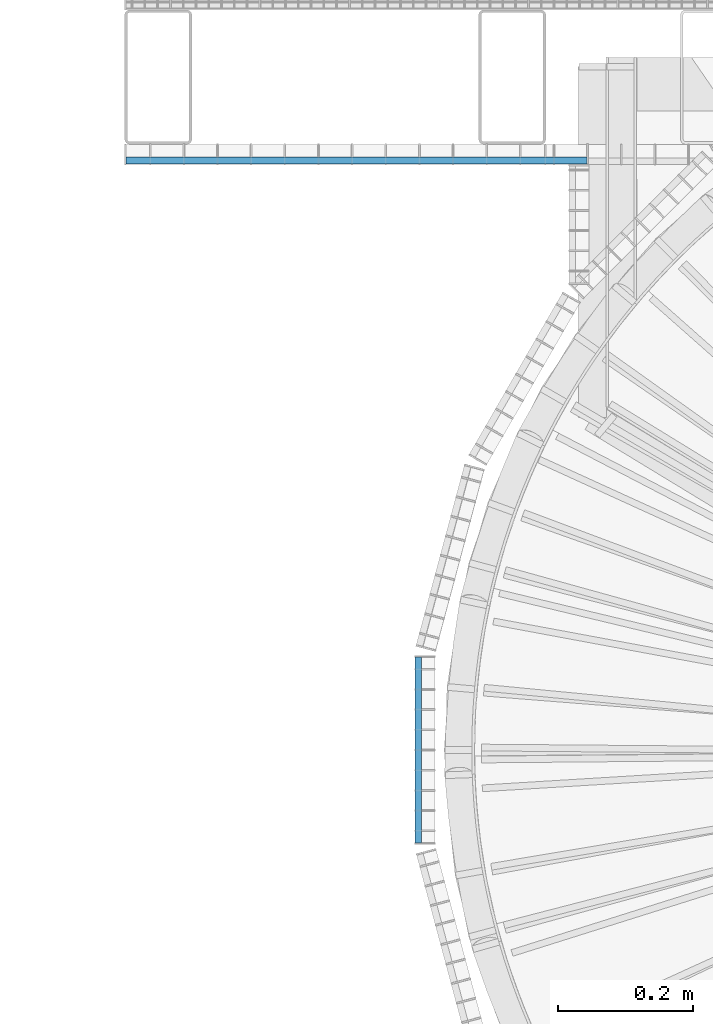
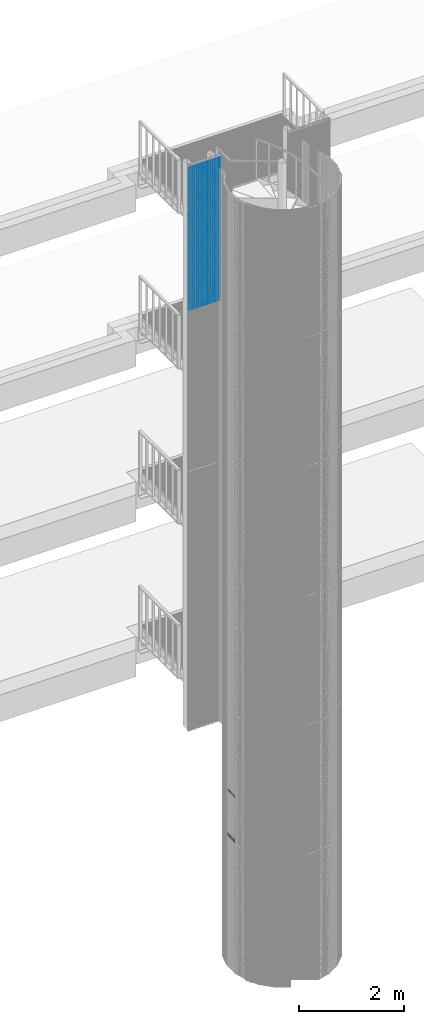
# One storey, part 206 of 1148: 72 beams, 2 elements without a shape of their own.
"""IFC2X3 building model written with IfcOpenShell, lengths in millimetres."""

from ifc_helpers import new_model, si_unit, frame, origin_with_axes, origin_2d_with_axis, place, context, subcontext, project, spatial, rectangle, extrude, material, type_object, element, aggregate, save


model = new_model("IFC2X3")

# Units and contexts
model_context = context("Model", 3, precision=1e-05, world=origin_with_axes())
body_context = subcontext(model_context, "Body", "Model", "MODEL_VIEW")
ifc_project = project(units=[si_unit("LENGTHUNIT", "METRE", prefix="MILLI"), si_unit("AREAUNIT", "SQUARE_METRE"), si_unit("VOLUMEUNIT", "CUBIC_METRE"), si_unit("MASSUNIT", "GRAM", prefix="KILO"), si_unit("TIMEUNIT", "SECOND"), si_unit("PLANEANGLEUNIT", "RADIAN"), si_unit("SOLIDANGLEUNIT", "STERADIAN"), si_unit("THERMODYNAMICTEMPERATUREUNIT", "DEGREE_CELSIUS"), si_unit("LUMINOUSINTENSITYUNIT", "LUMEN")], contexts=[model_context])

# Site, building, storey
site_placement = place(None, origin_with_axes())
site = spatial("IfcSite", under=ifc_project, at=site_placement, Name="Undefined", CompositionType="ELEMENT")
building_placement = place(site_placement, origin_with_axes())
building = spatial("IfcBuilding", under=site, at=building_placement, Name="Undefined", CompositionType="ELEMENT")
storey_placement = place(building_placement, origin_with_axes())
storey = spatial("IfcBuildingStorey", under=building, at=storey_placement, Name="Undefined", CompositionType="ELEMENT", Elevation=0.0)

# Assembly, beams
assembly_1_placement = place(storey_placement, origin_with_axes())
assembly_1 = element("IfcElementAssembly", 1, at=assembly_1_placement, inside=storey, Name="BORDURE", AssemblyPlace="NOTDEFINED", PredefinedType="NOTDEFINED")
ifc_material = material(Name="STEEL/S235JR")
beam_type = type_object("IfcBeamType", Name="PL2*10", PredefinedType="NOTDEFINED")
beam_1_placement = place(assembly_1_placement, frame((-1113.47999999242, 137.996003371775, 4080.0), z_axis=(-1.0, 0.0, 0.0), x_axis=(0.0, -1.0, 0.0)))
beam_1 = element("IfcBeam", 2, at=beam_1_placement, type_object=beam_type, material=ifc_material, Name="ENTRETOISE", context=body_context, shape_type="SweptSolid", body=[
    extrude(rectangle(XDim=2.0, YDim=10.0, at=origin_2d_with_axis()), frame((275.999999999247, 9.09494701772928e-13, 1.53210777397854e-14), z_axis=(-1.0, 0.0, 0.0), x_axis=(0.0, -1.0, 0.0)), (0.0, 0.0, 1.0), 276.0),
])
beam_2_placement = place(assembly_1_placement, frame((-1113.47999999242, 137.996003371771, 3090.0), z_axis=(-1.0, 0.0, 0.0), x_axis=(0.0, -1.0, 0.0)))
beam_2 = element("IfcBeam", 3, at=beam_2_placement, type_object=beam_type, material=ifc_material, Name="ENTRETOISE", context=body_context, shape_type="SweptSolid", body=[
    extrude(rectangle(XDim=2.0, YDim=10.0, at=origin_2d_with_axis()), frame((275.999999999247, 9.09494701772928e-13, 1.53210777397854e-14), z_axis=(-1.0, 0.0, 0.0), x_axis=(0.0, -1.0, 0.0)), (0.0, 0.0, 1.0), 276.0),
])
beam_3_placement = place(assembly_1_placement, frame((-1113.47999999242, 137.996003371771, 3060.0), z_axis=(-1.0, 0.0, 0.0), x_axis=(0.0, -1.0, 0.0)))
beam_3 = element("IfcBeam", 4, at=beam_3_placement, type_object=beam_type, material=ifc_material, Name="ENTRETOISE", context=body_context, shape_type="SweptSolid", body=[
    extrude(rectangle(XDim=2.0, YDim=10.0, at=origin_2d_with_axis()), frame((275.999999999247, 9.09494701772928e-13, 1.53210777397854e-14), z_axis=(-1.0, 0.0, 0.0), x_axis=(0.0, -1.0, 0.0)), (0.0, 0.0, 1.0), 276.0),
])
beam_4_placement = place(assembly_1_placement, frame((-1113.47999999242, 137.996003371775, 4110.0), z_axis=(-1.0, 0.0, 0.0), x_axis=(0.0, -1.0, 0.0)))
beam_4 = element("IfcBeam", 5, at=beam_4_placement, type_object=beam_type, material=ifc_material, Name="ENTRETOISE", context=body_context, shape_type="SweptSolid", body=[
    extrude(rectangle(XDim=2.0, YDim=10.0, at=origin_2d_with_axis()), frame((275.999999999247, 9.09494701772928e-13, 1.53210777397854e-14), z_axis=(-1.0, 0.0, 0.0), x_axis=(0.0, -1.0, 0.0)), (0.0, 0.0, 1.0), 276.0),
])
beam_5_placement = place(assembly_1_placement, frame((-1113.47999999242, 137.99600337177, 3030.0), z_axis=(-1.0, 0.0, 0.0), x_axis=(0.0, -1.0, 0.0)))
beam_5 = element("IfcBeam", 6, at=beam_5_placement, type_object=beam_type, material=ifc_material, Name="ENTRETOISE", context=body_context, shape_type="SweptSolid", body=[
    extrude(rectangle(XDim=2.0, YDim=10.0, at=origin_2d_with_axis()), frame((275.999999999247, 9.09494701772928e-13, 1.53210777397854e-14), z_axis=(-1.0, 0.0, 0.0), x_axis=(0.0, -1.0, 0.0)), (0.0, 0.0, 1.0), 276.0),
])
aggregate(assembly_1, [beam_1, beam_2, beam_3, beam_4, beam_5])

assembly_2_placement = place(storey_placement, origin_with_axes())
assembly_2 = element("IfcElementAssembly", 7, at=assembly_2_placement, inside=storey, Name="BORDURE", AssemblyPlace="NOTDEFINED", PredefinedType="NOTDEFINED")
beam_6_placement = place(assembly_2_placement, frame((-1547.92041016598, 875.994689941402, 18239.998), z_axis=(0.0, -1.0, 0.0), x_axis=(1.0, 0.0, 0.0)))
beam_6 = element("IfcBeam", 8, at=beam_6_placement, type_object=beam_type, material=ifc_material, Name="ENTRETOISE", context=body_context, shape_type="SweptSolid", body=[
    extrude(rectangle(XDim=2.0, YDim=10.0, at=origin_2d_with_axis()), frame((685.0, 0.0, 0.0), z_axis=(-1.0, 0.0, 0.0), x_axis=(0.0, -1.0, 0.0)), (0.0, 0.0, 1.0), 685.0),
])
beam_7_placement = place(assembly_2_placement, frame((-1547.92041016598, 875.994689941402, 18189.998), z_axis=(0.0, -1.0, 0.0), x_axis=(1.0, 0.0, 0.0)))
beam_7 = element("IfcBeam", 9, at=beam_7_placement, type_object=beam_type, material=ifc_material, Name="ENTRETOISE", context=body_context, shape_type="SweptSolid", body=[
    extrude(rectangle(XDim=2.0, YDim=10.0, at=origin_2d_with_axis()), frame((685.0, 0.0, 0.0), z_axis=(-1.0, 0.0, 0.0), x_axis=(0.0, -1.0, 0.0)), (0.0, 0.0, 1.0), 685.0),
])
beam_8_placement = place(assembly_2_placement, frame((-1547.92041016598, 875.994689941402, 18139.998), z_axis=(0.0, -1.0, 0.0), x_axis=(1.0, 0.0, 0.0)))
beam_8 = element("IfcBeam", 10, at=beam_8_placement, type_object=beam_type, material=ifc_material, Name="ENTRETOISE", context=body_context, shape_type="SweptSolid", body=[
    extrude(rectangle(XDim=2.0, YDim=10.0, at=origin_2d_with_axis()), frame((685.0, 0.0, 0.0), z_axis=(-1.0, 0.0, 0.0), x_axis=(0.0, -1.0, 0.0)), (0.0, 0.0, 1.0), 685.0),
])
beam_9_placement = place(assembly_2_placement, frame((-1547.92041016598, 875.994689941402, 18089.998), z_axis=(0.0, -1.0, 0.0), x_axis=(1.0, 0.0, 0.0)))
beam_9 = element("IfcBeam", 11, at=beam_9_placement, type_object=beam_type, material=ifc_material, Name="ENTRETOISE", context=body_context, shape_type="SweptSolid", body=[
    extrude(rectangle(XDim=2.0, YDim=10.0, at=origin_2d_with_axis()), frame((685.0, 0.0, 0.0), z_axis=(-1.0, 0.0, 0.0), x_axis=(0.0, -1.0, 0.0)), (0.0, 0.0, 1.0), 685.0),
])
beam_10_placement = place(assembly_2_placement, frame((-1547.92041016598, 875.994689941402, 18039.998), z_axis=(0.0, -1.0, 0.0), x_axis=(1.0, 0.0, 0.0)))
beam_10 = element("IfcBeam", 12, at=beam_10_placement, type_object=beam_type, material=ifc_material, Name="ENTRETOISE", context=body_context, shape_type="SweptSolid", body=[
    extrude(rectangle(XDim=2.0, YDim=10.0, at=origin_2d_with_axis()), frame((685.0, 0.0, 0.0), z_axis=(-1.0, 0.0, 0.0), x_axis=(0.0, -1.0, 0.0)), (0.0, 0.0, 1.0), 685.0),
])
beam_11_placement = place(assembly_2_placement, frame((-1547.92041016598, 875.994689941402, 17989.998), z_axis=(0.0, -1.0, 0.0), x_axis=(1.0, 0.0, 0.0)))
beam_11 = element("IfcBeam", 13, at=beam_11_placement, type_object=beam_type, material=ifc_material, Name="ENTRETOISE", context=body_context, shape_type="SweptSolid", body=[
    extrude(rectangle(XDim=2.0, YDim=10.0, at=origin_2d_with_axis()), frame((685.0, 0.0, 0.0), z_axis=(-1.0, 0.0, 0.0), x_axis=(0.0, -1.0, 0.0)), (0.0, 0.0, 1.0), 685.0),
])
beam_12_placement = place(assembly_2_placement, frame((-1547.92041016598, 875.994689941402, 17939.998), z_axis=(0.0, -1.0, 0.0), x_axis=(1.0, 0.0, 0.0)))
beam_12 = element("IfcBeam", 14, at=beam_12_placement, type_object=beam_type, material=ifc_material, Name="ENTRETOISE", context=body_context, shape_type="SweptSolid", body=[
    extrude(rectangle(XDim=2.0, YDim=10.0, at=origin_2d_with_axis()), frame((685.0, 0.0, 0.0), z_axis=(-1.0, 0.0, 0.0), x_axis=(0.0, -1.0, 0.0)), (0.0, 0.0, 1.0), 685.0),
])
beam_13_placement = place(assembly_2_placement, frame((-1547.92041016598, 875.994689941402, 17889.998), z_axis=(0.0, -1.0, 0.0), x_axis=(1.0, 0.0, 0.0)))
beam_13 = element("IfcBeam", 15, at=beam_13_placement, type_object=beam_type, material=ifc_material, Name="ENTRETOISE", context=body_context, shape_type="SweptSolid", body=[
    extrude(rectangle(XDim=2.0, YDim=10.0, at=origin_2d_with_axis()), frame((685.0, 0.0, 0.0), z_axis=(-1.0, 0.0, 0.0), x_axis=(0.0, -1.0, 0.0)), (0.0, 0.0, 1.0), 685.0),
])
beam_14_placement = place(assembly_2_placement, frame((-1547.92041016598, 875.994689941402, 17839.998), z_axis=(0.0, -1.0, 0.0), x_axis=(1.0, 0.0, 0.0)))
beam_14 = element("IfcBeam", 16, at=beam_14_placement, type_object=beam_type, material=ifc_material, Name="ENTRETOISE", context=body_context, shape_type="SweptSolid", body=[
    extrude(rectangle(XDim=2.0, YDim=10.0, at=origin_2d_with_axis()), frame((685.0, 0.0, 0.0), z_axis=(-1.0, 0.0, 0.0), x_axis=(0.0, -1.0, 0.0)), (0.0, 0.0, 1.0), 685.0),
])
beam_15_placement = place(assembly_2_placement, frame((-1547.92041016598, 875.994689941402, 17789.998), z_axis=(0.0, -1.0, 0.0), x_axis=(1.0, 0.0, 0.0)))
beam_15 = element("IfcBeam", 17, at=beam_15_placement, type_object=beam_type, material=ifc_material, Name="ENTRETOISE", context=body_context, shape_type="SweptSolid", body=[
    extrude(rectangle(XDim=2.0, YDim=10.0, at=origin_2d_with_axis()), frame((685.0, 0.0, 0.0), z_axis=(-1.0, 0.0, 0.0), x_axis=(0.0, -1.0, 0.0)), (0.0, 0.0, 1.0), 685.0),
])
beam_16_placement = place(assembly_2_placement, frame((-1547.92041016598, 875.994689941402, 17739.998), z_axis=(0.0, -1.0, 0.0), x_axis=(1.0, 0.0, 0.0)))
beam_16 = element("IfcBeam", 18, at=beam_16_placement, type_object=beam_type, material=ifc_material, Name="ENTRETOISE", context=body_context, shape_type="SweptSolid", body=[
    extrude(rectangle(XDim=2.0, YDim=10.0, at=origin_2d_with_axis()), frame((685.0, 0.0, 0.0), z_axis=(-1.0, 0.0, 0.0), x_axis=(0.0, -1.0, 0.0)), (0.0, 0.0, 1.0), 685.0),
])
beam_17_placement = place(assembly_2_placement, frame((-1547.92041016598, 875.994689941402, 17689.998), z_axis=(0.0, -1.0, 0.0), x_axis=(1.0, 0.0, 0.0)))
beam_17 = element("IfcBeam", 19, at=beam_17_placement, type_object=beam_type, material=ifc_material, Name="ENTRETOISE", context=body_context, shape_type="SweptSolid", body=[
    extrude(rectangle(XDim=2.0, YDim=10.0, at=origin_2d_with_axis()), frame((685.0, 0.0, 0.0), z_axis=(-1.0, 0.0, 0.0), x_axis=(0.0, -1.0, 0.0)), (0.0, 0.0, 1.0), 685.0),
])
beam_18_placement = place(assembly_2_placement, frame((-1547.92041016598, 875.994689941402, 17639.998), z_axis=(0.0, -1.0, 0.0), x_axis=(1.0, 0.0, 0.0)))
beam_18 = element("IfcBeam", 20, at=beam_18_placement, type_object=beam_type, material=ifc_material, Name="ENTRETOISE", context=body_context, shape_type="SweptSolid", body=[
    extrude(rectangle(XDim=2.0, YDim=10.0, at=origin_2d_with_axis()), frame((685.0, 0.0, 0.0), z_axis=(-1.0, 0.0, 0.0), x_axis=(0.0, -1.0, 0.0)), (0.0, 0.0, 1.0), 685.0),
])
beam_19_placement = place(assembly_2_placement, frame((-1547.92041016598, 875.994689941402, 17589.998), z_axis=(0.0, -1.0, 0.0), x_axis=(1.0, 0.0, 0.0)))
beam_19 = element("IfcBeam", 21, at=beam_19_placement, type_object=beam_type, material=ifc_material, Name="ENTRETOISE", context=body_context, shape_type="SweptSolid", body=[
    extrude(rectangle(XDim=2.0, YDim=10.0, at=origin_2d_with_axis()), frame((685.0, 0.0, 0.0), z_axis=(-1.0, 0.0, 0.0), x_axis=(0.0, -1.0, 0.0)), (0.0, 0.0, 1.0), 685.0),
])
beam_20_placement = place(assembly_2_placement, frame((-1547.92041016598, 875.994689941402, 17539.998), z_axis=(0.0, -1.0, 0.0), x_axis=(1.0, 0.0, 0.0)))
beam_20 = element("IfcBeam", 22, at=beam_20_placement, type_object=beam_type, material=ifc_material, Name="ENTRETOISE", context=body_context, shape_type="SweptSolid", body=[
    extrude(rectangle(XDim=2.0, YDim=10.0, at=origin_2d_with_axis()), frame((685.0, 0.0, 0.0), z_axis=(-1.0, 0.0, 0.0), x_axis=(0.0, -1.0, 0.0)), (0.0, 0.0, 1.0), 685.0),
])
beam_21_placement = place(assembly_2_placement, frame((-1547.92041016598, 875.994689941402, 17489.998), z_axis=(0.0, -1.0, 0.0), x_axis=(1.0, 0.0, 0.0)))
beam_21 = element("IfcBeam", 23, at=beam_21_placement, type_object=beam_type, material=ifc_material, Name="ENTRETOISE", context=body_context, shape_type="SweptSolid", body=[
    extrude(rectangle(XDim=2.0, YDim=10.0, at=origin_2d_with_axis()), frame((685.0, 0.0, 0.0), z_axis=(-1.0, 0.0, 0.0), x_axis=(0.0, -1.0, 0.0)), (0.0, 0.0, 1.0), 685.0),
])
beam_22_placement = place(assembly_2_placement, frame((-1547.92041016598, 875.994689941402, 17439.998), z_axis=(0.0, -1.0, 0.0), x_axis=(1.0, 0.0, 0.0)))
beam_22 = element("IfcBeam", 24, at=beam_22_placement, type_object=beam_type, material=ifc_material, Name="ENTRETOISE", context=body_context, shape_type="SweptSolid", body=[
    extrude(rectangle(XDim=2.0, YDim=10.0, at=origin_2d_with_axis()), frame((685.0, 0.0, 0.0), z_axis=(-1.0, 0.0, 0.0), x_axis=(0.0, -1.0, 0.0)), (0.0, 0.0, 1.0), 685.0),
])
beam_23_placement = place(assembly_2_placement, frame((-1547.92041016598, 875.994689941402, 17389.998), z_axis=(0.0, -1.0, 0.0), x_axis=(1.0, 0.0, 0.0)))
beam_23 = element("IfcBeam", 25, at=beam_23_placement, type_object=beam_type, material=ifc_material, Name="ENTRETOISE", context=body_context, shape_type="SweptSolid", body=[
    extrude(rectangle(XDim=2.0, YDim=10.0, at=origin_2d_with_axis()), frame((685.0, 0.0, 0.0), z_axis=(-1.0, 0.0, 0.0), x_axis=(0.0, -1.0, 0.0)), (0.0, 0.0, 1.0), 685.0),
])
beam_24_placement = place(assembly_2_placement, frame((-1547.92041016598, 875.994689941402, 17339.998), z_axis=(0.0, -1.0, 0.0), x_axis=(1.0, 0.0, 0.0)))
beam_24 = element("IfcBeam", 26, at=beam_24_placement, type_object=beam_type, material=ifc_material, Name="ENTRETOISE", context=body_context, shape_type="SweptSolid", body=[
    extrude(rectangle(XDim=2.0, YDim=10.0, at=origin_2d_with_axis()), frame((685.0, 0.0, 0.0), z_axis=(-1.0, 0.0, 0.0), x_axis=(0.0, -1.0, 0.0)), (0.0, 0.0, 1.0), 685.0),
])
beam_25_placement = place(assembly_2_placement, frame((-1547.92041016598, 875.994689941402, 17289.998), z_axis=(0.0, -1.0, 0.0), x_axis=(1.0, 0.0, 0.0)))
beam_25 = element("IfcBeam", 27, at=beam_25_placement, type_object=beam_type, material=ifc_material, Name="ENTRETOISE", context=body_context, shape_type="SweptSolid", body=[
    extrude(rectangle(XDim=2.0, YDim=10.0, at=origin_2d_with_axis()), frame((685.0, 0.0, 0.0), z_axis=(-1.0, 0.0, 0.0), x_axis=(0.0, -1.0, 0.0)), (0.0, 0.0, 1.0), 685.0),
])
beam_26_placement = place(assembly_2_placement, frame((-1547.92041016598, 875.994689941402, 17239.998), z_axis=(0.0, -1.0, 0.0), x_axis=(1.0, 0.0, 0.0)))
beam_26 = element("IfcBeam", 28, at=beam_26_placement, type_object=beam_type, material=ifc_material, Name="ENTRETOISE", context=body_context, shape_type="SweptSolid", body=[
    extrude(rectangle(XDim=2.0, YDim=10.0, at=origin_2d_with_axis()), frame((685.0, 0.0, 0.0), z_axis=(-1.0, 0.0, 0.0), x_axis=(0.0, -1.0, 0.0)), (0.0, 0.0, 1.0), 685.0),
])
beam_27_placement = place(assembly_2_placement, frame((-1547.92041016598, 875.994689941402, 17189.998), z_axis=(0.0, -1.0, 0.0), x_axis=(1.0, 0.0, 0.0)))
beam_27 = element("IfcBeam", 29, at=beam_27_placement, type_object=beam_type, material=ifc_material, Name="ENTRETOISE", context=body_context, shape_type="SweptSolid", body=[
    extrude(rectangle(XDim=2.0, YDim=10.0, at=origin_2d_with_axis()), frame((685.0, 0.0, 0.0), z_axis=(-1.0, 0.0, 0.0), x_axis=(0.0, -1.0, 0.0)), (0.0, 0.0, 1.0), 685.0),
])
beam_28_placement = place(assembly_2_placement, frame((-1547.92041016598, 875.994689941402, 17139.998), z_axis=(0.0, -1.0, 0.0), x_axis=(1.0, 0.0, 0.0)))
beam_28 = element("IfcBeam", 30, at=beam_28_placement, type_object=beam_type, material=ifc_material, Name="ENTRETOISE", context=body_context, shape_type="SweptSolid", body=[
    extrude(rectangle(XDim=2.0, YDim=10.0, at=origin_2d_with_axis()), frame((685.0, 0.0, 0.0), z_axis=(-1.0, 0.0, 0.0), x_axis=(0.0, -1.0, 0.0)), (0.0, 0.0, 1.0), 685.0),
])
beam_29_placement = place(assembly_2_placement, frame((-1547.92041016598, 875.994689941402, 17089.998), z_axis=(0.0, -1.0, 0.0), x_axis=(1.0, 0.0, 0.0)))
beam_29 = element("IfcBeam", 31, at=beam_29_placement, type_object=beam_type, material=ifc_material, Name="ENTRETOISE", context=body_context, shape_type="SweptSolid", body=[
    extrude(rectangle(XDim=2.0, YDim=10.0, at=origin_2d_with_axis()), frame((685.0, 0.0, 0.0), z_axis=(-1.0, 0.0, 0.0), x_axis=(0.0, -1.0, 0.0)), (0.0, 0.0, 1.0), 685.0),
])
beam_30_placement = place(assembly_2_placement, frame((-1547.92041016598, 875.994689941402, 17039.998), z_axis=(0.0, -1.0, 0.0), x_axis=(1.0, 0.0, 0.0)))
beam_30 = element("IfcBeam", 32, at=beam_30_placement, type_object=beam_type, material=ifc_material, Name="ENTRETOISE", context=body_context, shape_type="SweptSolid", body=[
    extrude(rectangle(XDim=2.0, YDim=10.0, at=origin_2d_with_axis()), frame((685.0, 0.0, 0.0), z_axis=(-1.0, 0.0, 0.0), x_axis=(0.0, -1.0, 0.0)), (0.0, 0.0, 1.0), 685.0),
])
beam_31_placement = place(assembly_2_placement, frame((-1547.92041016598, 875.994689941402, 16989.998), z_axis=(0.0, -1.0, 0.0), x_axis=(1.0, 0.0, 0.0)))
beam_31 = element("IfcBeam", 33, at=beam_31_placement, type_object=beam_type, material=ifc_material, Name="ENTRETOISE", context=body_context, shape_type="SweptSolid", body=[
    extrude(rectangle(XDim=2.0, YDim=10.0, at=origin_2d_with_axis()), frame((685.0, 0.0, 0.0), z_axis=(-1.0, 0.0, 0.0), x_axis=(0.0, -1.0, 0.0)), (0.0, 0.0, 1.0), 685.0),
])
beam_32_placement = place(assembly_2_placement, frame((-1547.92041016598, 875.994689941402, 16939.998), z_axis=(0.0, -1.0, 0.0), x_axis=(1.0, 0.0, 0.0)))
beam_32 = element("IfcBeam", 34, at=beam_32_placement, type_object=beam_type, material=ifc_material, Name="ENTRETOISE", context=body_context, shape_type="SweptSolid", body=[
    extrude(rectangle(XDim=2.0, YDim=10.0, at=origin_2d_with_axis()), frame((685.0, 0.0, 0.0), z_axis=(-1.0, 0.0, 0.0), x_axis=(0.0, -1.0, 0.0)), (0.0, 0.0, 1.0), 685.0),
])
beam_33_placement = place(assembly_2_placement, frame((-1547.92041016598, 875.994689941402, 16889.998), z_axis=(0.0, -1.0, 0.0), x_axis=(1.0, 0.0, 0.0)))
beam_33 = element("IfcBeam", 35, at=beam_33_placement, type_object=beam_type, material=ifc_material, Name="ENTRETOISE", context=body_context, shape_type="SweptSolid", body=[
    extrude(rectangle(XDim=2.0, YDim=10.0, at=origin_2d_with_axis()), frame((685.0, 0.0, 0.0), z_axis=(-1.0, 0.0, 0.0), x_axis=(0.0, -1.0, 0.0)), (0.0, 0.0, 1.0), 685.0),
])
beam_34_placement = place(assembly_2_placement, frame((-1547.92041016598, 875.994689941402, 16839.998), z_axis=(0.0, -1.0, 0.0), x_axis=(1.0, 0.0, 0.0)))
beam_34 = element("IfcBeam", 36, at=beam_34_placement, type_object=beam_type, material=ifc_material, Name="ENTRETOISE", context=body_context, shape_type="SweptSolid", body=[
    extrude(rectangle(XDim=2.0, YDim=10.0, at=origin_2d_with_axis()), frame((685.0, 0.0, 0.0), z_axis=(-1.0, 0.0, 0.0), x_axis=(0.0, -1.0, 0.0)), (0.0, 0.0, 1.0), 685.0),
])
beam_35_placement = place(assembly_2_placement, frame((-1547.92041016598, 875.994689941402, 16789.998), z_axis=(0.0, -1.0, 0.0), x_axis=(1.0, 0.0, 0.0)))
beam_35 = element("IfcBeam", 37, at=beam_35_placement, type_object=beam_type, material=ifc_material, Name="ENTRETOISE", context=body_context, shape_type="SweptSolid", body=[
    extrude(rectangle(XDim=2.0, YDim=10.0, at=origin_2d_with_axis()), frame((685.0, 0.0, 0.0), z_axis=(-1.0, 0.0, 0.0), x_axis=(0.0, -1.0, 0.0)), (0.0, 0.0, 1.0), 685.0),
])
beam_36_placement = place(assembly_2_placement, frame((-1547.92041016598, 875.994689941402, 16739.998), z_axis=(0.0, -1.0, 0.0), x_axis=(1.0, 0.0, 0.0)))
beam_36 = element("IfcBeam", 38, at=beam_36_placement, type_object=beam_type, material=ifc_material, Name="ENTRETOISE", context=body_context, shape_type="SweptSolid", body=[
    extrude(rectangle(XDim=2.0, YDim=10.0, at=origin_2d_with_axis()), frame((685.0, 0.0, 0.0), z_axis=(-1.0, 0.0, 0.0), x_axis=(0.0, -1.0, 0.0)), (0.0, 0.0, 1.0), 685.0),
])
beam_37_placement = place(assembly_2_placement, frame((-1547.92041016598, 875.994689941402, 16689.998), z_axis=(0.0, -1.0, 0.0), x_axis=(1.0, 0.0, 0.0)))
beam_37 = element("IfcBeam", 39, at=beam_37_placement, type_object=beam_type, material=ifc_material, Name="ENTRETOISE", context=body_context, shape_type="SweptSolid", body=[
    extrude(rectangle(XDim=2.0, YDim=10.0, at=origin_2d_with_axis()), frame((685.0, 0.0, 0.0), z_axis=(-1.0, 0.0, 0.0), x_axis=(0.0, -1.0, 0.0)), (0.0, 0.0, 1.0), 685.0),
])
beam_38_placement = place(assembly_2_placement, frame((-1547.92041016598, 875.994689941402, 16639.998), z_axis=(0.0, -1.0, 0.0), x_axis=(1.0, 0.0, 0.0)))
beam_38 = element("IfcBeam", 40, at=beam_38_placement, type_object=beam_type, material=ifc_material, Name="ENTRETOISE", context=body_context, shape_type="SweptSolid", body=[
    extrude(rectangle(XDim=2.0, YDim=10.0, at=origin_2d_with_axis()), frame((685.0, 0.0, 0.0), z_axis=(-1.0, 0.0, 0.0), x_axis=(0.0, -1.0, 0.0)), (0.0, 0.0, 1.0), 685.0),
])
beam_39_placement = place(assembly_2_placement, frame((-1547.92041016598, 875.994689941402, 16589.998), z_axis=(0.0, -1.0, 0.0), x_axis=(1.0, 0.0, 0.0)))
beam_39 = element("IfcBeam", 41, at=beam_39_placement, type_object=beam_type, material=ifc_material, Name="ENTRETOISE", context=body_context, shape_type="SweptSolid", body=[
    extrude(rectangle(XDim=2.0, YDim=10.0, at=origin_2d_with_axis()), frame((685.0, 0.0, 0.0), z_axis=(-1.0, 0.0, 0.0), x_axis=(0.0, -1.0, 0.0)), (0.0, 0.0, 1.0), 685.0),
])
beam_40_placement = place(assembly_2_placement, frame((-1547.92041016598, 875.994689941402, 16539.998), z_axis=(0.0, -1.0, 0.0), x_axis=(1.0, 0.0, 0.0)))
beam_40 = element("IfcBeam", 42, at=beam_40_placement, type_object=beam_type, material=ifc_material, Name="ENTRETOISE", context=body_context, shape_type="SweptSolid", body=[
    extrude(rectangle(XDim=2.0, YDim=10.0, at=origin_2d_with_axis()), frame((685.0, 0.0, 0.0), z_axis=(-1.0, 0.0, 0.0), x_axis=(0.0, -1.0, 0.0)), (0.0, 0.0, 1.0), 685.0),
])
beam_41_placement = place(assembly_2_placement, frame((-1547.92041016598, 875.994689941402, 16489.998), z_axis=(0.0, -1.0, 0.0), x_axis=(1.0, 0.0, 0.0)))
beam_41 = element("IfcBeam", 43, at=beam_41_placement, type_object=beam_type, material=ifc_material, Name="ENTRETOISE", context=body_context, shape_type="SweptSolid", body=[
    extrude(rectangle(XDim=2.0, YDim=10.0, at=origin_2d_with_axis()), frame((685.0, 0.0, 0.0), z_axis=(-1.0, 0.0, 0.0), x_axis=(0.0, -1.0, 0.0)), (0.0, 0.0, 1.0), 685.0),
])
beam_42_placement = place(assembly_2_placement, frame((-1547.92041016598, 875.994689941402, 16439.998), z_axis=(0.0, -1.0, 0.0), x_axis=(1.0, 0.0, 0.0)))
beam_42 = element("IfcBeam", 44, at=beam_42_placement, type_object=beam_type, material=ifc_material, Name="ENTRETOISE", context=body_context, shape_type="SweptSolid", body=[
    extrude(rectangle(XDim=2.0, YDim=10.0, at=origin_2d_with_axis()), frame((685.0, 0.0, 0.0), z_axis=(-1.0, 0.0, 0.0), x_axis=(0.0, -1.0, 0.0)), (0.0, 0.0, 1.0), 685.0),
])
beam_43_placement = place(assembly_2_placement, frame((-1547.92041016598, 875.994689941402, 16389.998), z_axis=(0.0, -1.0, 0.0), x_axis=(1.0, 0.0, 0.0)))
beam_43 = element("IfcBeam", 45, at=beam_43_placement, type_object=beam_type, material=ifc_material, Name="ENTRETOISE", context=body_context, shape_type="SweptSolid", body=[
    extrude(rectangle(XDim=2.0, YDim=10.0, at=origin_2d_with_axis()), frame((685.0, 0.0, 0.0), z_axis=(-1.0, 0.0, 0.0), x_axis=(0.0, -1.0, 0.0)), (0.0, 0.0, 1.0), 685.0),
])
beam_44_placement = place(assembly_2_placement, frame((-1547.92041016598, 875.994689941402, 16339.998), z_axis=(0.0, -1.0, 0.0), x_axis=(1.0, 0.0, 0.0)))
beam_44 = element("IfcBeam", 46, at=beam_44_placement, type_object=beam_type, material=ifc_material, Name="ENTRETOISE", context=body_context, shape_type="SweptSolid", body=[
    extrude(rectangle(XDim=2.0, YDim=10.0, at=origin_2d_with_axis()), frame((685.0, 0.0, 0.0), z_axis=(-1.0, 0.0, 0.0), x_axis=(0.0, -1.0, 0.0)), (0.0, 0.0, 1.0), 685.0),
])
beam_45_placement = place(assembly_2_placement, frame((-1547.92041016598, 875.994689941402, 16289.998), z_axis=(0.0, -1.0, 0.0), x_axis=(1.0, 0.0, 0.0)))
beam_45 = element("IfcBeam", 47, at=beam_45_placement, type_object=beam_type, material=ifc_material, Name="ENTRETOISE", context=body_context, shape_type="SweptSolid", body=[
    extrude(rectangle(XDim=2.0, YDim=10.0, at=origin_2d_with_axis()), frame((685.0, 0.0, 0.0), z_axis=(-1.0, 0.0, 0.0), x_axis=(0.0, -1.0, 0.0)), (0.0, 0.0, 1.0), 685.0),
])
beam_46_placement = place(assembly_2_placement, frame((-1547.92041016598, 875.994689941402, 16239.998), z_axis=(0.0, -1.0, 0.0), x_axis=(1.0, 0.0, 0.0)))
beam_46 = element("IfcBeam", 48, at=beam_46_placement, type_object=beam_type, material=ifc_material, Name="ENTRETOISE", context=body_context, shape_type="SweptSolid", body=[
    extrude(rectangle(XDim=2.0, YDim=10.0, at=origin_2d_with_axis()), frame((685.0, 0.0, 0.0), z_axis=(-1.0, 0.0, 0.0), x_axis=(0.0, -1.0, 0.0)), (0.0, 0.0, 1.0), 685.0),
])
beam_47_placement = place(assembly_2_placement, frame((-1547.92041016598, 875.994689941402, 16189.998), z_axis=(0.0, -1.0, 0.0), x_axis=(1.0, 0.0, 0.0)))
beam_47 = element("IfcBeam", 49, at=beam_47_placement, type_object=beam_type, material=ifc_material, Name="ENTRETOISE", context=body_context, shape_type="SweptSolid", body=[
    extrude(rectangle(XDim=2.0, YDim=10.0, at=origin_2d_with_axis()), frame((685.0, 0.0, 0.0), z_axis=(-1.0, 0.0, 0.0), x_axis=(0.0, -1.0, 0.0)), (0.0, 0.0, 1.0), 685.0),
])
beam_48_placement = place(assembly_2_placement, frame((-1547.92041016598, 875.994689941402, 16139.998), z_axis=(0.0, -1.0, 0.0), x_axis=(1.0, 0.0, 0.0)))
beam_48 = element("IfcBeam", 50, at=beam_48_placement, type_object=beam_type, material=ifc_material, Name="ENTRETOISE", context=body_context, shape_type="SweptSolid", body=[
    extrude(rectangle(XDim=2.0, YDim=10.0, at=origin_2d_with_axis()), frame((685.0, 0.0, 0.0), z_axis=(-1.0, 0.0, 0.0), x_axis=(0.0, -1.0, 0.0)), (0.0, 0.0, 1.0), 685.0),
])
beam_49_placement = place(assembly_2_placement, frame((-1547.92041016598, 875.994689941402, 16089.998), z_axis=(0.0, -1.0, 0.0), x_axis=(1.0, 0.0, 0.0)))
beam_49 = element("IfcBeam", 51, at=beam_49_placement, type_object=beam_type, material=ifc_material, Name="ENTRETOISE", context=body_context, shape_type="SweptSolid", body=[
    extrude(rectangle(XDim=2.0, YDim=10.0, at=origin_2d_with_axis()), frame((685.0, 0.0, 0.0), z_axis=(-1.0, 0.0, 0.0), x_axis=(0.0, -1.0, 0.0)), (0.0, 0.0, 1.0), 685.0),
])
beam_50_placement = place(assembly_2_placement, frame((-1547.92041016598, 875.994689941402, 16039.998), z_axis=(0.0, -1.0, 0.0), x_axis=(1.0, 0.0, 0.0)))
beam_50 = element("IfcBeam", 52, at=beam_50_placement, type_object=beam_type, material=ifc_material, Name="ENTRETOISE", context=body_context, shape_type="SweptSolid", body=[
    extrude(rectangle(XDim=2.0, YDim=10.0, at=origin_2d_with_axis()), frame((685.0, 0.0, 0.0), z_axis=(-1.0, 0.0, 0.0), x_axis=(0.0, -1.0, 0.0)), (0.0, 0.0, 1.0), 685.0),
])
beam_51_placement = place(assembly_2_placement, frame((-1547.92041016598, 875.994689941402, 15989.998), z_axis=(0.0, -1.0, 0.0), x_axis=(1.0, 0.0, 0.0)))
beam_51 = element("IfcBeam", 53, at=beam_51_placement, type_object=beam_type, material=ifc_material, Name="ENTRETOISE", context=body_context, shape_type="SweptSolid", body=[
    extrude(rectangle(XDim=2.0, YDim=10.0, at=origin_2d_with_axis()), frame((685.0, 0.0, 0.0), z_axis=(-1.0, 0.0, 0.0), x_axis=(0.0, -1.0, 0.0)), (0.0, 0.0, 1.0), 685.0),
])
beam_52_placement = place(assembly_2_placement, frame((-1547.92041016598, 875.994689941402, 15939.998), z_axis=(0.0, -1.0, 0.0), x_axis=(1.0, 0.0, 0.0)))
beam_52 = element("IfcBeam", 54, at=beam_52_placement, type_object=beam_type, material=ifc_material, Name="ENTRETOISE", context=body_context, shape_type="SweptSolid", body=[
    extrude(rectangle(XDim=2.0, YDim=10.0, at=origin_2d_with_axis()), frame((685.0, 0.0, 0.0), z_axis=(-1.0, 0.0, 0.0), x_axis=(0.0, -1.0, 0.0)), (0.0, 0.0, 1.0), 685.0),
])
beam_53_placement = place(assembly_2_placement, frame((-1547.92041016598, 875.994689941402, 15889.998), z_axis=(0.0, -1.0, 0.0), x_axis=(1.0, 0.0, 0.0)))
beam_53 = element("IfcBeam", 55, at=beam_53_placement, type_object=beam_type, material=ifc_material, Name="ENTRETOISE", context=body_context, shape_type="SweptSolid", body=[
    extrude(rectangle(XDim=2.0, YDim=10.0, at=origin_2d_with_axis()), frame((685.0, 0.0, 0.0), z_axis=(-1.0, 0.0, 0.0), x_axis=(0.0, -1.0, 0.0)), (0.0, 0.0, 1.0), 685.0),
])
beam_54_placement = place(assembly_2_placement, frame((-1547.92041016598, 875.994689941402, 15839.998), z_axis=(0.0, -1.0, 0.0), x_axis=(1.0, 0.0, 0.0)))
beam_54 = element("IfcBeam", 56, at=beam_54_placement, type_object=beam_type, material=ifc_material, Name="ENTRETOISE", context=body_context, shape_type="SweptSolid", body=[
    extrude(rectangle(XDim=2.0, YDim=10.0, at=origin_2d_with_axis()), frame((685.0, 0.0, 0.0), z_axis=(-1.0, 0.0, 0.0), x_axis=(0.0, -1.0, 0.0)), (0.0, 0.0, 1.0), 685.0),
])
beam_55_placement = place(assembly_2_placement, frame((-1547.92041016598, 875.994689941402, 15789.998), z_axis=(0.0, -1.0, 0.0), x_axis=(1.0, 0.0, 0.0)))
beam_55 = element("IfcBeam", 57, at=beam_55_placement, type_object=beam_type, material=ifc_material, Name="ENTRETOISE", context=body_context, shape_type="SweptSolid", body=[
    extrude(rectangle(XDim=2.0, YDim=10.0, at=origin_2d_with_axis()), frame((685.0, 0.0, 0.0), z_axis=(-1.0, 0.0, 0.0), x_axis=(0.0, -1.0, 0.0)), (0.0, 0.0, 1.0), 685.0),
])
beam_56_placement = place(assembly_2_placement, frame((-1547.92041016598, 875.994689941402, 15739.998), z_axis=(0.0, -1.0, 0.0), x_axis=(1.0, 0.0, 0.0)))
beam_56 = element("IfcBeam", 58, at=beam_56_placement, type_object=beam_type, material=ifc_material, Name="ENTRETOISE", context=body_context, shape_type="SweptSolid", body=[
    extrude(rectangle(XDim=2.0, YDim=10.0, at=origin_2d_with_axis()), frame((685.0, 0.0, 0.0), z_axis=(-1.0, 0.0, 0.0), x_axis=(0.0, -1.0, 0.0)), (0.0, 0.0, 1.0), 685.0),
])
beam_57_placement = place(assembly_2_placement, frame((-1547.92041016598, 875.994689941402, 15689.998), z_axis=(0.0, -1.0, 0.0), x_axis=(1.0, 0.0, 0.0)))
beam_57 = element("IfcBeam", 59, at=beam_57_placement, type_object=beam_type, material=ifc_material, Name="ENTRETOISE", context=body_context, shape_type="SweptSolid", body=[
    extrude(rectangle(XDim=2.0, YDim=10.0, at=origin_2d_with_axis()), frame((685.0, 0.0, 0.0), z_axis=(-1.0, 0.0, 0.0), x_axis=(0.0, -1.0, 0.0)), (0.0, 0.0, 1.0), 685.0),
])
beam_58_placement = place(assembly_2_placement, frame((-1547.92041016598, 875.994689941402, 15639.998), z_axis=(0.0, -1.0, 0.0), x_axis=(1.0, 0.0, 0.0)))
beam_58 = element("IfcBeam", 60, at=beam_58_placement, type_object=beam_type, material=ifc_material, Name="ENTRETOISE", context=body_context, shape_type="SweptSolid", body=[
    extrude(rectangle(XDim=2.0, YDim=10.0, at=origin_2d_with_axis()), frame((685.0, 0.0, 0.0), z_axis=(-1.0, 0.0, 0.0), x_axis=(0.0, -1.0, 0.0)), (0.0, 0.0, 1.0), 685.0),
])
beam_59_placement = place(assembly_2_placement, frame((-1547.92041016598, 875.994689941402, 15589.998), z_axis=(0.0, -1.0, 0.0), x_axis=(1.0, 0.0, 0.0)))
beam_59 = element("IfcBeam", 61, at=beam_59_placement, type_object=beam_type, material=ifc_material, Name="ENTRETOISE", context=body_context, shape_type="SweptSolid", body=[
    extrude(rectangle(XDim=2.0, YDim=10.0, at=origin_2d_with_axis()), frame((685.0, 0.0, 0.0), z_axis=(-1.0, 0.0, 0.0), x_axis=(0.0, -1.0, 0.0)), (0.0, 0.0, 1.0), 685.0),
])
beam_60_placement = place(assembly_2_placement, frame((-1547.92041016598, 875.994689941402, 15539.998), z_axis=(0.0, -1.0, 0.0), x_axis=(1.0, 0.0, 0.0)))
beam_60 = element("IfcBeam", 62, at=beam_60_placement, type_object=beam_type, material=ifc_material, Name="ENTRETOISE", context=body_context, shape_type="SweptSolid", body=[
    extrude(rectangle(XDim=2.0, YDim=10.0, at=origin_2d_with_axis()), frame((685.0, 0.0, 0.0), z_axis=(-1.0, 0.0, 0.0), x_axis=(0.0, -1.0, 0.0)), (0.0, 0.0, 1.0), 685.0),
])
beam_61_placement = place(assembly_2_placement, frame((-1547.92041016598, 875.994689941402, 15489.998), z_axis=(0.0, -1.0, 0.0), x_axis=(1.0, 0.0, 0.0)))
beam_61 = element("IfcBeam", 63, at=beam_61_placement, type_object=beam_type, material=ifc_material, Name="ENTRETOISE", context=body_context, shape_type="SweptSolid", body=[
    extrude(rectangle(XDim=2.0, YDim=10.0, at=origin_2d_with_axis()), frame((685.0, 0.0, 0.0), z_axis=(-1.0, 0.0, 0.0), x_axis=(0.0, -1.0, 0.0)), (0.0, 0.0, 1.0), 685.0),
])
beam_62_placement = place(assembly_2_placement, frame((-1547.92041016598, 875.994689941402, 15439.998), z_axis=(0.0, -1.0, 0.0), x_axis=(1.0, 0.0, 0.0)))
beam_62 = element("IfcBeam", 64, at=beam_62_placement, type_object=beam_type, material=ifc_material, Name="ENTRETOISE", context=body_context, shape_type="SweptSolid", body=[
    extrude(rectangle(XDim=2.0, YDim=10.0, at=origin_2d_with_axis()), frame((685.0, 0.0, 0.0), z_axis=(-1.0, 0.0, 0.0), x_axis=(0.0, -1.0, 0.0)), (0.0, 0.0, 1.0), 685.0),
])
beam_63_placement = place(assembly_2_placement, frame((-1547.92041016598, 875.994689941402, 15389.998), z_axis=(0.0, -1.0, 0.0), x_axis=(1.0, 0.0, 0.0)))
beam_63 = element("IfcBeam", 65, at=beam_63_placement, type_object=beam_type, material=ifc_material, Name="ENTRETOISE", context=body_context, shape_type="SweptSolid", body=[
    extrude(rectangle(XDim=2.0, YDim=10.0, at=origin_2d_with_axis()), frame((685.0, 0.0, 0.0), z_axis=(-1.0, 0.0, 0.0), x_axis=(0.0, -1.0, 0.0)), (0.0, 0.0, 1.0), 685.0),
])
beam_64_placement = place(assembly_2_placement, frame((-1547.92041016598, 875.994689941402, 15339.998), z_axis=(0.0, -1.0, 0.0), x_axis=(1.0, 0.0, 0.0)))
beam_64 = element("IfcBeam", 66, at=beam_64_placement, type_object=beam_type, material=ifc_material, Name="ENTRETOISE", context=body_context, shape_type="SweptSolid", body=[
    extrude(rectangle(XDim=2.0, YDim=10.0, at=origin_2d_with_axis()), frame((685.0, 0.0, 0.0), z_axis=(-1.0, 0.0, 0.0), x_axis=(0.0, -1.0, 0.0)), (0.0, 0.0, 1.0), 685.0),
])
beam_65_placement = place(assembly_2_placement, frame((-1547.92041016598, 875.994689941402, 15289.998), z_axis=(0.0, -1.0, 0.0), x_axis=(1.0, 0.0, 0.0)))
beam_65 = element("IfcBeam", 67, at=beam_65_placement, type_object=beam_type, material=ifc_material, Name="ENTRETOISE", context=body_context, shape_type="SweptSolid", body=[
    extrude(rectangle(XDim=2.0, YDim=10.0, at=origin_2d_with_axis()), frame((685.0, 0.0, 0.0), z_axis=(-1.0, 0.0, 0.0), x_axis=(0.0, -1.0, 0.0)), (0.0, 0.0, 1.0), 685.0),
])
beam_66_placement = place(assembly_2_placement, frame((-1547.92041016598, 875.994689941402, 15239.998), z_axis=(0.0, -1.0, 0.0), x_axis=(1.0, 0.0, 0.0)))
beam_66 = element("IfcBeam", 68, at=beam_66_placement, type_object=beam_type, material=ifc_material, Name="ENTRETOISE", context=body_context, shape_type="SweptSolid", body=[
    extrude(rectangle(XDim=2.0, YDim=10.0, at=origin_2d_with_axis()), frame((685.0, 0.0, 0.0), z_axis=(-1.0, 0.0, 0.0), x_axis=(0.0, -1.0, 0.0)), (0.0, 0.0, 1.0), 685.0),
])
beam_67_placement = place(assembly_2_placement, frame((-1547.92041016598, 875.994689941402, 15189.998), z_axis=(0.0, -1.0, 0.0), x_axis=(1.0, 0.0, 0.0)))
beam_67 = element("IfcBeam", 69, at=beam_67_placement, type_object=beam_type, material=ifc_material, Name="ENTRETOISE", context=body_context, shape_type="SweptSolid", body=[
    extrude(rectangle(XDim=2.0, YDim=10.0, at=origin_2d_with_axis()), frame((685.0, 0.0, 0.0), z_axis=(-1.0, 0.0, 0.0), x_axis=(0.0, -1.0, 0.0)), (0.0, 0.0, 1.0), 685.0),
])
beam_68_placement = place(assembly_2_placement, frame((-1547.92041016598, 875.994689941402, 15139.998), z_axis=(0.0, -1.0, 0.0), x_axis=(1.0, 0.0, 0.0)))
beam_68 = element("IfcBeam", 70, at=beam_68_placement, type_object=beam_type, material=ifc_material, Name="ENTRETOISE", context=body_context, shape_type="SweptSolid", body=[
    extrude(rectangle(XDim=2.0, YDim=10.0, at=origin_2d_with_axis()), frame((685.0, 0.0, 0.0), z_axis=(-1.0, 0.0, 0.0), x_axis=(0.0, -1.0, 0.0)), (0.0, 0.0, 1.0), 685.0),
])
beam_69_placement = place(assembly_2_placement, frame((-1547.92041016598, 875.994689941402, 15089.998), z_axis=(0.0, -1.0, 0.0), x_axis=(1.0, 0.0, 0.0)))
beam_69 = element("IfcBeam", 71, at=beam_69_placement, type_object=beam_type, material=ifc_material, Name="ENTRETOISE", context=body_context, shape_type="SweptSolid", body=[
    extrude(rectangle(XDim=2.0, YDim=10.0, at=origin_2d_with_axis()), frame((685.0, 0.0, 0.0), z_axis=(-1.0, 0.0, 0.0), x_axis=(0.0, -1.0, 0.0)), (0.0, 0.0, 1.0), 685.0),
])
beam_70_placement = place(assembly_2_placement, frame((-1547.92041016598, 875.994689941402, 15039.998), z_axis=(0.0, -1.0, 0.0), x_axis=(1.0, 0.0, 0.0)))
beam_70 = element("IfcBeam", 72, at=beam_70_placement, type_object=beam_type, material=ifc_material, Name="ENTRETOISE", context=body_context, shape_type="SweptSolid", body=[
    extrude(rectangle(XDim=2.0, YDim=10.0, at=origin_2d_with_axis()), frame((685.0, 0.0, 0.0), z_axis=(-1.0, 0.0, 0.0), x_axis=(0.0, -1.0, 0.0)), (0.0, 0.0, 1.0), 685.0),
])
beam_71_placement = place(assembly_2_placement, frame((-1547.92041016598, 875.994689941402, 14989.998), z_axis=(0.0, -1.0, 0.0), x_axis=(1.0, 0.0, 0.0)))
beam_71 = element("IfcBeam", 73, at=beam_71_placement, type_object=beam_type, material=ifc_material, Name="ENTRETOISE", context=body_context, shape_type="SweptSolid", body=[
    extrude(rectangle(XDim=2.0, YDim=10.0, at=origin_2d_with_axis()), frame((685.0, 0.0, 0.0), z_axis=(-1.0, 0.0, 0.0), x_axis=(0.0, -1.0, 0.0)), (0.0, 0.0, 1.0), 685.0),
])
beam_72_placement = place(assembly_2_placement, frame((-1547.92041016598, 875.994689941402, 14939.998), z_axis=(0.0, -1.0, 0.0), x_axis=(1.0, 0.0, 0.0)))
beam_72 = element("IfcBeam", 74, at=beam_72_placement, type_object=beam_type, material=ifc_material, Name="ENTRETOISE", context=body_context, shape_type="SweptSolid", body=[
    extrude(rectangle(XDim=2.0, YDim=10.0, at=origin_2d_with_axis()), frame((685.0, 0.0, 0.0), z_axis=(-1.0, 0.0, 0.0), x_axis=(0.0, -1.0, 0.0)), (0.0, 0.0, 1.0), 685.0),
])
aggregate(assembly_2, [beam_6, beam_7, beam_8, beam_9, beam_10, beam_11, beam_12, beam_13, beam_14, beam_15, beam_16, beam_17, beam_18, beam_19, beam_20, beam_21, beam_22, beam_23, beam_24, beam_25, beam_26, beam_27, beam_28, beam_29, beam_30, beam_31, beam_32, beam_33, beam_34, beam_35, beam_36, beam_37, beam_38, beam_39, beam_40, beam_41, beam_42, beam_43, beam_44, beam_45, beam_46, beam_47, beam_48, beam_49, beam_50, beam_51, beam_52, beam_53, beam_54, beam_55, beam_56, beam_57, beam_58, beam_59, beam_60, beam_61, beam_62, beam_63, beam_64, beam_65, beam_66, beam_67, beam_68, beam_69, beam_70, beam_71, beam_72])

save(model, "model.ifc")
